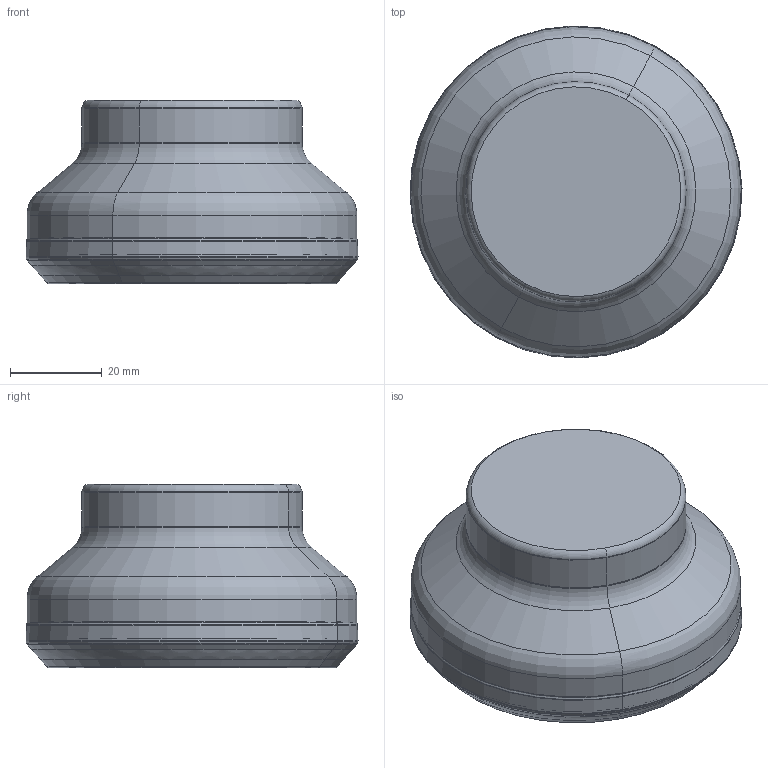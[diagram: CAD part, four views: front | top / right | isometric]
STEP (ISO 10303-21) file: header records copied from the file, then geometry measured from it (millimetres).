
FILE_DESCRIPTION(('CATIA V5 STEP Exchange'),'2;1');
FILE_NAME('I:\isr\design\admin8\users\hala_s\3106525.stp','2012-11-01T06:40:33+00:00',('none'),('none'),'CATIA Version 5 Release 21 SP 3 (IN-10)','CATIA V5 STEP AP214','none');
FILE_SCHEMA(('AUTOMOTIVE_DESIGN { 1 0 10303 214 1 1 1 1 }'));
Length unit declared in the file: millimetre
Products named in the file (1): 61057816_0 Assembly IQ845 FSY D063-07-22-R07
Bounding box: 72.38 x 72.38 x 40 mm (x, y, z)
Volume: 134350.2 mm3; surface area: 22109.2 mm2
Topology: 2 solids, 2 shells, 215 faces, 428 edges, 216 vertices
Faces by surface type: cone 178, torus 28, cylinder 6, plane 3
Entity records: 4674 total; most frequent: ORIENTED_EDGE 856, CARTESIAN_POINT 757, DIRECTION 652, EDGE_CURVE 428, AXIS2_PLACEMENT_3D 357, CIRCLE 244, EDGE_LOOP 216, VERTEX_POINT 216
